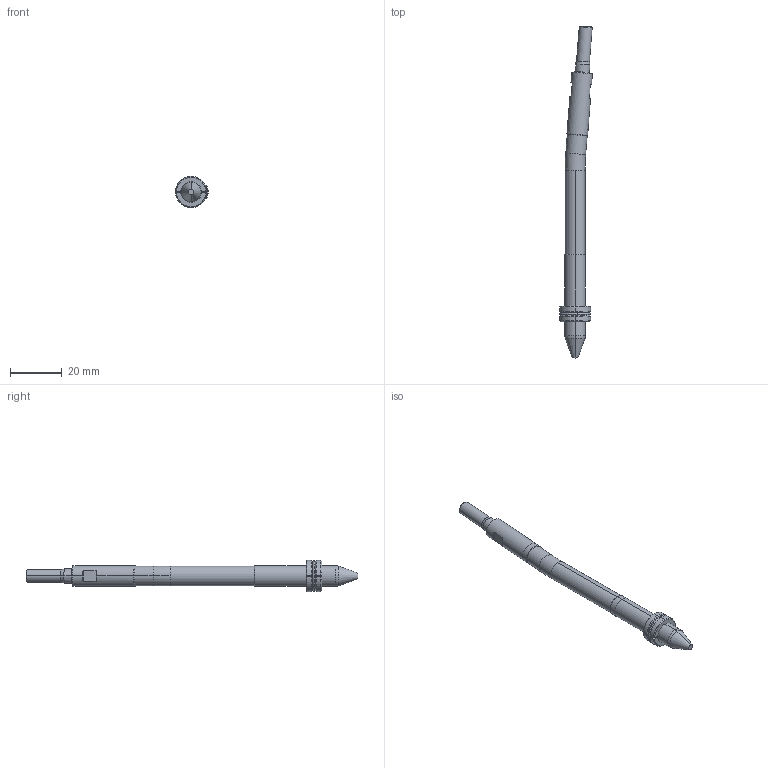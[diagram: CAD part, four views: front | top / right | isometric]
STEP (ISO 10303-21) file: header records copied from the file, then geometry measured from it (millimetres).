
FILE_DESCRIPTION (( 'STEP AP214' ), '1' );
FILE_NAME ('WP080030-INJ 4,5°.STEP', '2021-03-19T15:19:30', ( '' ), ( '' ), 'SwSTEP 2.0', 'SolidWorks 2019', '' );
FILE_SCHEMA (( 'AUTOMOTIVE_DESIGN' ));
Length unit declared in the file: millimetre
Products named in the file (6): Web-WP08-7; WP080030-INJ 4,5°; Web-WP08-2; Web-WP08-6; Web-WP08-1; Web-WP08-F_WP08-F-OFF 4,5ø
Assembly tree (5 placements, depth 2):
  WP080030-INJ 4,5°
    Web-WP08-1
    Web-WP08-F_WP08-F-OFF 4,5ø
    Web-WP08-2
    Web-WP08-6
    Web-WP08-7
Bounding box: 12.68 x 128.02 x 12 mm (x, y, z)
Volume: 5841.3 mm3; surface area: 4095.3 mm2
Topology: 6 solids, 6 shells, 121 faces, 280 edges, 174 vertices
Faces by surface type: cylinder 36, plane 29, cone 28, torus 28
Entity records: 3977 total; most frequent: CARTESIAN_POINT 767, DIRECTION 652, ORIENTED_EDGE 560, AXIS2_PLACEMENT_3D 283, EDGE_CURVE 280, VERTEX_POINT 174, CIRCLE 154, EDGE_LOOP 126
